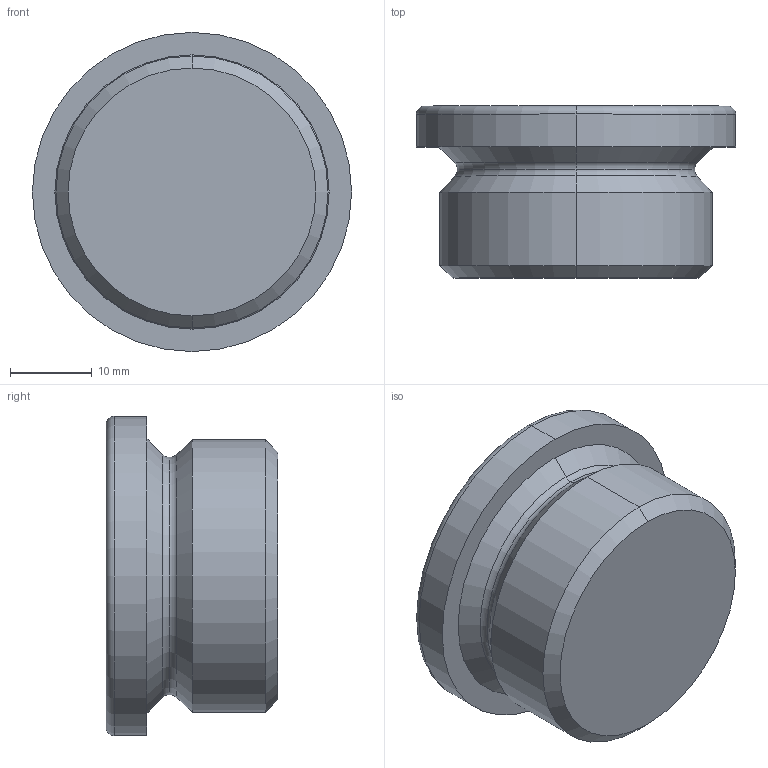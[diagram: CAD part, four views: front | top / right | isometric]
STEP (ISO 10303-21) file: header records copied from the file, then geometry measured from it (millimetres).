
FILE_DESCRIPTION (( 'STEP AP214' ), '1' );
FILE_NAME ('908-A4-G1-A.step', '2024-12-19T09:19:25', ( '' ), ( '' ), 'SwSTEP 2.0', 'SolidWorks 2022', '' );
FILE_SCHEMA (( 'AUTOMOTIVE_DESIGN' ));
Length unit declared in the file: millimetre
Products named in the file (1): 908-A4-G1-A
Bounding box: 39 x 21 x 39 mm (x, y, z)
Volume: 16809.4 mm3; surface area: 5164.9 mm2
Topology: 1 solids, 1 shells, 26 faces, 54 edges, 32 vertices
Faces by surface type: plane 10, torus 6, cone 6, cylinder 4
Entity records: 744 total; most frequent: DIRECTION 134, CARTESIAN_POINT 113, ORIENTED_EDGE 108, EDGE_CURVE 54, AXIS2_PLACEMENT_3D 53, VERTEX_POINT 32, EDGE_LOOP 28, VECTOR 28
